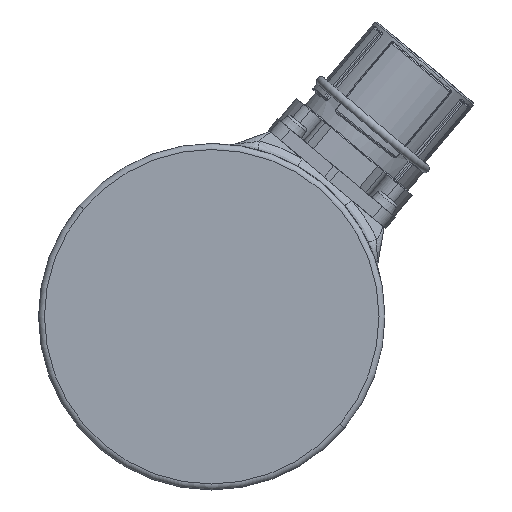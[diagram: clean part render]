
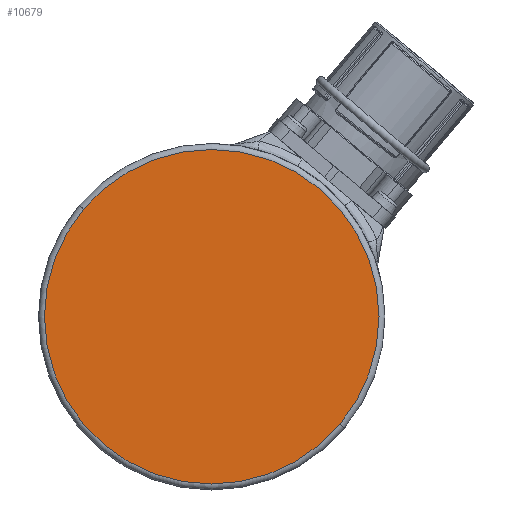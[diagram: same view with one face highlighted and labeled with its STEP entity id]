
A CAD part, left-side view. The second image highlights one B-rep face of the part: STEP entity #10679.
In plain terms, the highlighted planar face has unit normal (-1, 0, 0).
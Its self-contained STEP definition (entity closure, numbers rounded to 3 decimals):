
#1813 = ORIENTED_EDGE ( 'NONE', *, *, #20896, .T. ) ;
#4130 = FACE_OUTER_BOUND ( 'NONE', #25024, .T. ) ;
#5024 = DIRECTION ( 'NONE',  ( 0., 0.766, 0.643 ) ) ;
#6363 = EDGE_CURVE ( 'NONE', #23536, #11894, #16989, .T. ) ;
#6980 = ORIENTED_EDGE ( 'NONE', *, *, #6363, .T. ) ;
#10679 = ADVANCED_FACE ( 'NONE', ( #4130 ), #18647, .F. ) ;
#11681 = CARTESIAN_POINT ( 'NONE',  ( -40., 0., 0. ) ) ;
#11894 = VERTEX_POINT ( 'NONE', #28652 ) ;
#12326 = AXIS2_PLACEMENT_3D ( 'NONE', #23114, #13964, #5024 ) ;
#13349 = DIRECTION ( 'NONE',  ( -1., 0., 0. ) ) ;
#13717 = AXIS2_PLACEMENT_3D ( 'NONE', #26990, #13349, #29225 ) ;
#13964 = DIRECTION ( 'NONE',  ( 1., 0., 0. ) ) ;
#13994 = DIRECTION ( 'NONE',  ( 0., 0.766, 0.643 ) ) ;
#14612 = CIRCLE ( 'NONE', #13717, 28. ) ;
#16463 = AXIS2_PLACEMENT_3D ( 'NONE', #11681, #27606, #13994 ) ;
#16989 = CIRCLE ( 'NONE', #16463, 28. ) ;
#18647 = PLANE ( 'NONE',  #12326 ) ;
#20896 = EDGE_CURVE ( 'NONE', #11894, #23536, #14612, .T. ) ;
#23114 = CARTESIAN_POINT ( 'NONE',  ( -40., 0., 0. ) ) ;
#23536 = VERTEX_POINT ( 'NONE', #23992 ) ;
#23992 = CARTESIAN_POINT ( 'NONE',  ( -40., 21.449, 17.998 ) ) ;
#25024 = EDGE_LOOP ( 'NONE', ( #6980, #1813 ) ) ;
#26990 = CARTESIAN_POINT ( 'NONE',  ( -40., 0., 0. ) ) ;
#27606 = DIRECTION ( 'NONE',  ( -1., 0., 0. ) ) ;
#28652 = CARTESIAN_POINT ( 'NONE',  ( -40., -21.449, -17.998 ) ) ;
#29225 = DIRECTION ( 'NONE',  ( 0., 0.766, 0.643 ) ) ;
